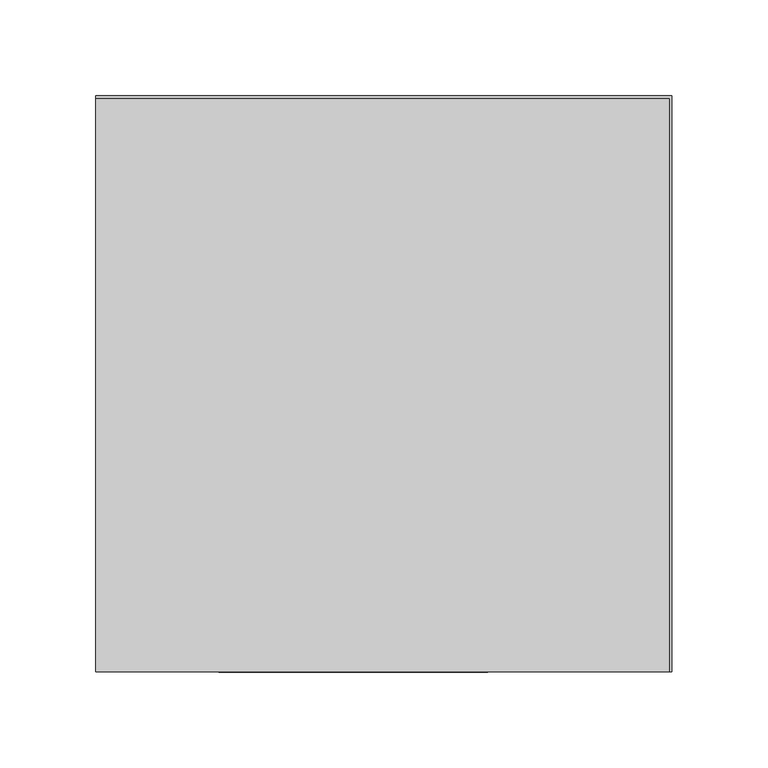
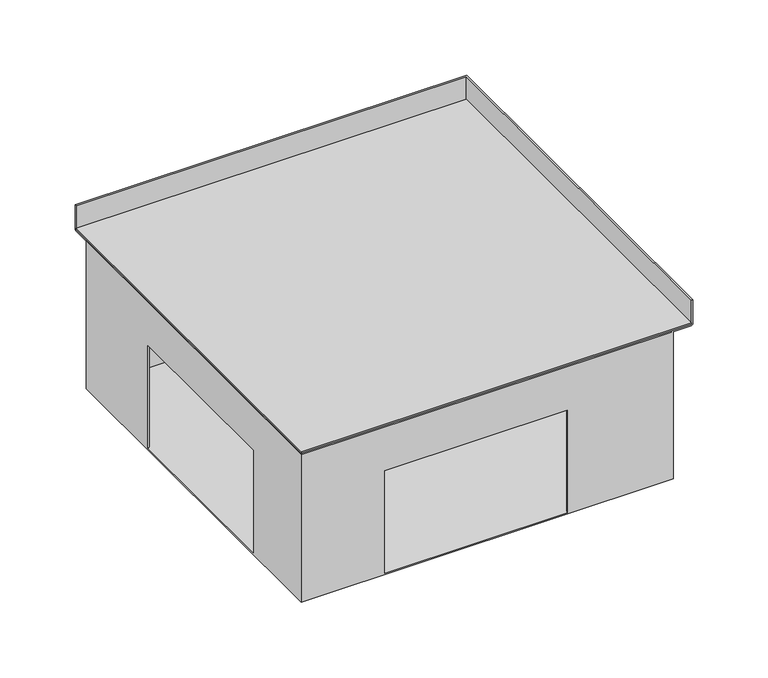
"""IFC4 building model written with IfcOpenShell, lengths in millimetres: proxy geometry, TECHNO_Угловой элемент_KVU : 300_140_90°."""

from ifc_helpers import new_model, si_unit, frame, origin, place, context, project, spatial, polyline, circle_curve, ellipse_curve, outline, extrude, source, transform, mapped, element, save
from ifc_brep_helpers import plane_surface, cylinder_surface, advanced_brep


def mechanical_equipment_07f47053(model_context):
    return source(origin(), model_context, "Body", "SolidModel", [
        extrude(outline(polyline([(0.0, 148.8), (298.8, 148.8), (298.8, -150.0), (0.0, -150.0), (0.0, 148.8)])), frame((0.0, 0.0, -19.3), z_axis=(0.0, 0.0, 1.0), x_axis=(1.0, 0.0, 0.0)), (0.0, 0.0, 1.0), 1.2),
        advanced_brep(
        [(284.0, -148.8, -138.8), (284.0, 134.0, -138.8), (1.2, 134.0, -138.8), (1.2, 54.0, -138.8), (0.0, 54.0, -138.8), (0.0, -86.0, -138.8), (1.2, -86.0, -138.8), (1.2, -148.8, -138.8), (64.0, -148.8, -138.8), (64.0, -150.0, -138.8), (204.0, -150.0, -138.8), (204.0, -148.8, -138.8), (0.0, 135.2, -140.0), (285.2, 135.2, -140.0), (285.2, -150.0, -140.0), (0.0, -150.0, -140.0), (0.0, 135.2, -20.5), (0.0, -150.0, -20.5), (0.0, 134.0, -20.5), (0.0, 135.2, -19.3), (0.0, 148.8, -19.3), (0.0, 148.8, 0.0), (0.0, 150.0, 0.0), (0.0, 150.0, -19.3), (0.0, 148.8, -20.5), (0.0, -86.0, -55.8), (0.0, 54.0, -55.8), (285.2, -150.0, -20.5), (298.8, -150.0, -20.5), (300.0, -150.0, -19.3), (300.0, -150.0, 0.0), (298.8, -150.0, 0.0), (298.8, -150.0, -19.3), (285.2, -150.0, -19.3), (284.0, -150.0, -20.5), (64.0, -150.0, -55.8), (204.0, -150.0, -55.8), (285.2, 135.2, -20.5), (1.2, 135.2, -19.3), (1.2, -148.8, -19.3), (285.2, -148.8, -19.3), (298.8, 148.8, -19.3), (285.2, -134.0, -19.3), (16.0, -134.0, -19.3), (16.0, 135.2, -19.3), (285.2, 135.2, -19.3), (16.0, -134.0, -20.5), (16.0, 134.0, -20.5), (284.0, -134.0, -20.5), (284.0, -148.8, -20.5), (1.2, -148.8, -20.5), (1.2, 134.0, -20.5), (1.2, -86.0, -55.8), (1.2, 54.0, -55.8), (204.0, -148.8, -55.8), (64.0, -148.8, -55.8), (300.0, 150.0, -19.3), (300.0, 150.0, 0.0), (298.8, 148.8, 0.0), (298.8, 148.8, -20.5), (284.0, 134.0, -20.5)],
        [
            (0, 1),
            (1, 2),
            (2, 3),
            (3, 4),
            (4, 5),
            (5, 6),
            (6, 7),
            (7, 8),
            (8, 9),
            (9, 10),
            (10, 11),
            (11, 0),
            (12, 13),
            (13, 14),
            (14, 15),
            (15, 12),
            (16, 12),
            (15, 17),
            (17, 18),
            (18, 19, circle_curve(frame((0.0, 135.2, -20.5), z_axis=(-1.0, 0.0, 0.0), x_axis=(0.0, -1.0, 0.0)), 1.2)),
            (19, 20),
            (20, 21),
            (21, 22),
            (22, 23),
            (23, 24, circle_curve(frame((0.0, 148.8, -19.3), z_axis=(-1.0, 0.0, 0.0), x_axis=(0.0, -1.0, 0.0)), 1.2)),
            (24, 16),
            (25, 5),
            (4, 26),
            (26, 25),
            (14, 27),
            (27, 28),
            (28, 29, circle_curve(frame((298.8, -150.0, -19.3), z_axis=(0.0, -1.0, 0.0), x_axis=(-1.0, 0.0, 0.0)), 1.2)),
            (29, 30),
            (30, 31),
            (31, 32),
            (32, 33),
            (33, 34, circle_curve(frame((285.2, -150.0, -20.5), z_axis=(0.0, -1.0, 0.0), x_axis=(-1.0, 0.0, 0.0)), 1.2)),
            (34, 17),
            (9, 35),
            (35, 36),
            (36, 10),
            (16, 37),
            (37, 13),
            (37, 27),
            (38, 39),
            (39, 40),
            (40, 33),
            (32, 41),
            (41, 20),
            (19, 38),
            (42, 43),
            (43, 44),
            (44, 45),
            (45, 42),
            (43, 46),
            (46, 47),
            (47, 44, circle_curve(frame((16.0, 135.2, -20.5), z_axis=(-1.0, 0.0, 0.0), x_axis=(0.0, -1.0, 0.0)), 1.2)),
            (42, 48, circle_curve(frame((285.2, -134.0, -20.5), z_axis=(0.0, -1.0, 0.0), x_axis=(-1.0, 0.0, 0.0)), 1.2)),
            (48, 46),
            (48, 49),
            (49, 50),
            (50, 51),
            (51, 47),
            (50, 7),
            (6, 52),
            (52, 53),
            (53, 3),
            (2, 51),
            (49, 0),
            (11, 54),
            (54, 55),
            (55, 8),
            (38, 18, ellipse_curve(frame((1.2, 135.2, -20.5), z_axis=(0.7071067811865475, -0.7071067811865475, 0.0), x_axis=(0.7071067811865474, 0.7071067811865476, 0.0)), 1.6970563, 1.2)),
            (17, 39, ellipse_curve(frame((1.2, -148.8, -20.5), z_axis=(-0.7071067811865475, 0.7071067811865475, 0.0), x_axis=(0.7071067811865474, 0.7071067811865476, 0.0)), 1.6970563, 1.2)),
            (34, 40, ellipse_curve(frame((285.2, -148.8, -20.5), z_axis=(-0.7071067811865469, 0.707106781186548, 0.0), x_axis=(-0.7071067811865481, -0.7071067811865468, 0.0)), 1.6970563, 1.2)),
            (29, 56),
            (56, 57),
            (57, 30),
            (57, 22),
            (21, 58),
            (58, 31),
            (58, 41),
            (24, 59),
            (59, 28),
            (59, 56, ellipse_curve(frame((298.8, 148.8, -19.3), z_axis=(0.7071067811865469, -0.707106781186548, 0.0), x_axis=(-0.7071067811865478, -0.707106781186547, 0.0)), 1.6970563, 1.2)),
            (56, 23),
            (45, 60, ellipse_curve(frame((285.2, 135.2, -20.5), z_axis=(0.7071067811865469, -0.707106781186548, 0.0), x_axis=(-0.7071067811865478, -0.707106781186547, 0.0)), 1.6970563, 1.2)),
            (60, 48),
            (60, 1),
            (47, 60),
            (25, 52),
            (53, 26),
            (55, 35),
            (54, 36),
        ],
        [
            plane_surface(frame((0.0, 134.0, -138.8), z_axis=(0.0, 0.0, 1.0), x_axis=(0.0, -1.0, 0.0))),
            plane_surface(frame((0.0, 134.0, -140.0), z_axis=(0.0, 0.0, -1.0), x_axis=(0.0, 1.0, 0.0))),
            plane_surface(frame((0.0, 134.0, -138.8), z_axis=(-1.0, 0.0, 0.0), x_axis=(0.0, 0.0, -1.0))),
            plane_surface(frame((0.0, -150.0, -138.8), z_axis=(0.0, -1.0, 0.0), x_axis=(0.0, 0.0, -1.0))),
            plane_surface(frame((0.0, 135.2, -140.0), z_axis=(0.0, 1.0, 0.0), x_axis=(0.0, 0.0, -1.0))),
            plane_surface(frame((285.2, -150.0, -140.0), z_axis=(1.0, 0.0, 0.0), x_axis=(0.0, 0.0, -1.0))),
            plane_surface(frame((1.2, 135.2, -19.3), z_axis=(0.0, 0.0, 1.0), x_axis=(0.0, -1.0, 0.0))),
            plane_surface(frame((16.0, 135.2, -19.3), z_axis=(1.0, 0.0, 0.0), x_axis=(0.0, -1.0, 0.0))),
            plane_surface(frame((16.0, -134.0, -19.3), z_axis=(0.0, 1.0, 0.0), x_axis=(1.0, 0.0, 0.0))),
            plane_surface(frame((16.0, 135.2, -20.5), z_axis=(0.0, 0.0, -1.0), x_axis=(0.0, -1.0, 0.0))),
            plane_surface(frame((1.2, 135.2, -20.5), z_axis=(1.0, 0.0, 0.0), x_axis=(0.0, -1.0, 0.0))),
            plane_surface(frame((1.2, -148.8, -20.5), z_axis=(0.0, 1.0, 0.0), x_axis=(1.0, 0.0, 0.0))),
            cylinder_surface(frame((1.2, 135.2, -20.5), z_axis=(0.0, 1.0, 0.0), x_axis=(-1.0, 0.0, 0.0)), 1.2),
            cylinder_surface(frame((0.0, -148.8, -20.5), z_axis=(-1.0, 0.0, 0.0), x_axis=(0.0, -1.0, 0.0)), 1.2),
            plane_surface(frame((300.0, -150.0, -19.3), z_axis=(1.0, 0.0, 0.0), x_axis=(0.0, 1.0, 0.0))),
            plane_surface(frame((300.0, -150.0, 0.0), z_axis=(0.0, 0.0, 1.0), x_axis=(0.0, 1.0, 0.0))),
            plane_surface(frame((298.8, -150.0, 0.0), z_axis=(-1.0, 0.0, 0.0), x_axis=(0.0, 1.0, 0.0))),
            plane_surface(frame((285.2, -150.0, -20.5), z_axis=(0.0, 0.0, -1.0), x_axis=(0.0, 1.0, 0.0))),
            cylinder_surface(frame((298.8, -150.0, -19.3), z_axis=(0.0, -1.0, 0.0), x_axis=(-1.0, 0.0, 0.0)), 1.2),
            plane_surface(frame((300.0, 150.0, -19.3), z_axis=(0.0, 1.0, 0.0), x_axis=(-1.0, 0.0, 0.0))),
            plane_surface(frame((298.8, 148.8, 0.0), z_axis=(0.0, -1.0, 0.0), x_axis=(-1.0, 0.0, 0.0))),
            cylinder_surface(frame((150.0, 148.8, -19.3), z_axis=(1.0, 0.0, 0.0), x_axis=(0.0, -1.0, 0.0)), 1.2),
            cylinder_surface(frame((285.2, -150.0, -20.5), z_axis=(0.0, -1.0, 0.0), x_axis=(-1.0, 0.0, 0.0)), 1.2),
            plane_surface(frame((284.0, -150.0, -20.5), z_axis=(-1.0, 0.0, 0.0), x_axis=(0.0, 1.0, 0.0))),
            cylinder_surface(frame((150.0, 135.2, -20.5), z_axis=(1.0, 0.0, 0.0), x_axis=(0.0, -1.0, 0.0)), 1.2),
            plane_surface(frame((284.0, 134.0, -20.5), z_axis=(0.0, -1.0, 0.0), x_axis=(-1.0, 0.0, 0.0))),
            plane_surface(frame((1.2, -86.0, -55.8), z_axis=(0.0, 1.0, 0.0), x_axis=(-1.0, 0.0, 0.0))),
            plane_surface(frame((1.2, 54.0, -138.8), z_axis=(0.0, -1.0, 0.0), x_axis=(-1.0, 0.0, 0.0))),
            plane_surface(frame((1.2, 54.0, -55.8), z_axis=(0.0, 0.0, -1.0), x_axis=(-1.0, 0.0, 0.0))),
            plane_surface(frame((64.0, -148.8, -138.8), z_axis=(1.0, 0.0, 0.0), x_axis=(0.0, -1.0, 0.0))),
            plane_surface(frame((64.0, -148.8, -55.8), z_axis=(0.0, 0.0, -1.0), x_axis=(0.0, -1.0, 0.0))),
            plane_surface(frame((204.0, -148.8, -55.8), z_axis=(-1.0, 0.0, 0.0), x_axis=(0.0, -1.0, 0.0))),
        ],
        [
            (0, [[1, 2, 3, 4, 5, 6, 7, 8, 9, 10, 11, 12]]),
            (1, [[13, 14, 15, 16]]),
            (2, [[17, -16, 18, 19, 20, 21, 22, 23, 24, 25, 26], [27, -5, 28, 29]]),
            (3, [[30, 31, 32, 33, 34, 35, 36, 37, 38, -18, -15], [39, 40, 41, -10]]),
            (4, [[-17, 42, 43, -13]]),
            (5, [[-30, -14, -43, 44]]),
            (6, [[45, 46, 47, -36, 48, 49, -21, 50], [51, 52, 53, 54]]),
            (7, [[-52, 55, 56, 57]]),
            (8, [[-51, 58, 59, -55]]),
            (9, [[-56, -59, 60, 61, 62, 63]]),
            (10, [[64, -7, 65, 66, 67, -3, 68, -62]]),
            (11, [[-64, -61, 69, -12, 70, 71, 72, -8]]),
            (12, [[-45, 73, -19, 74]]),
            (13, [[-46, -74, -38, 75]]),
            (14, [[-33, 76, 77, 78]]),
            (15, [[-34, -78, 79, -23, 80, 81]]),
            (16, [[-35, -81, 82, -48]]),
            (17, [[-31, -44, -42, -26, 83, 84]]),
            (18, [[-32, -84, 85, -76]]),
            (19, [[-77, 86, -24, -79]]),
            (20, [[-80, -22, -49, -82]]),
            (21, [[-83, -25, -86, -85]]),
            (22, [[-37, -47, -75]]),
            (22, [[87, 88, -58, -54]]),
            (23, [[89, -1, -69, -60, -88]]),
            (24, [[-20, -73, -50]]),
            (24, [[-87, -53, -57, 90]]),
            (25, [[-89, -90, -63, -68, -2]]),
            (26, [[-6, -27, 91, -65]]),
            (27, [[-4, -67, 92, -28]]),
            (28, [[-91, -29, -92, -66]]),
            (29, [[93, -39, -9, -72]]),
            (30, [[-93, -71, 94, -40]]),
            (31, [[-94, -70, -11, -41]]),
        ],
    ),
    ])


if __name__ == "__main__":
    model = new_model("IFC4")
    model_context = context("Model", 3, world=origin())
    ifc_project = project(units=[si_unit("LENGTHUNIT", "METRE", prefix="MILLI")], contexts=[model_context])
    site = spatial("IfcSite", under=ifc_project)
    building = spatial("IfcBuilding", under=site)
    placement = place(None, origin())
    mechanical_equipment_shape = mechanical_equipment_07f47053(model_context)
    element("IfcBuildingElementProxy", 1, Name="TECHNO_Угловой элемент_KVU : 300_140_90°", ObjectType="TECHNO_Угловой элемент_KVU : 300_140_90°", at=placement, inside=building, context=model_context, shape_type="MappedRepresentation", body=[
        mapped(mechanical_equipment_shape, transform((0.0, 0.0, 0.0), x_axis=(1.0, 0.0, 0.0), y_axis=(0.0, 1.0, 0.0), z_axis=(0.0, 0.0, 1.0))),
    ])
    save(model, "model.ifc")
